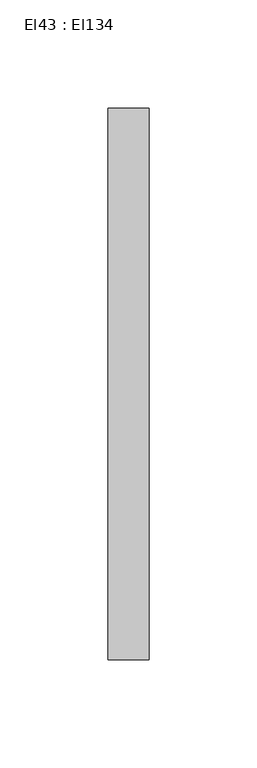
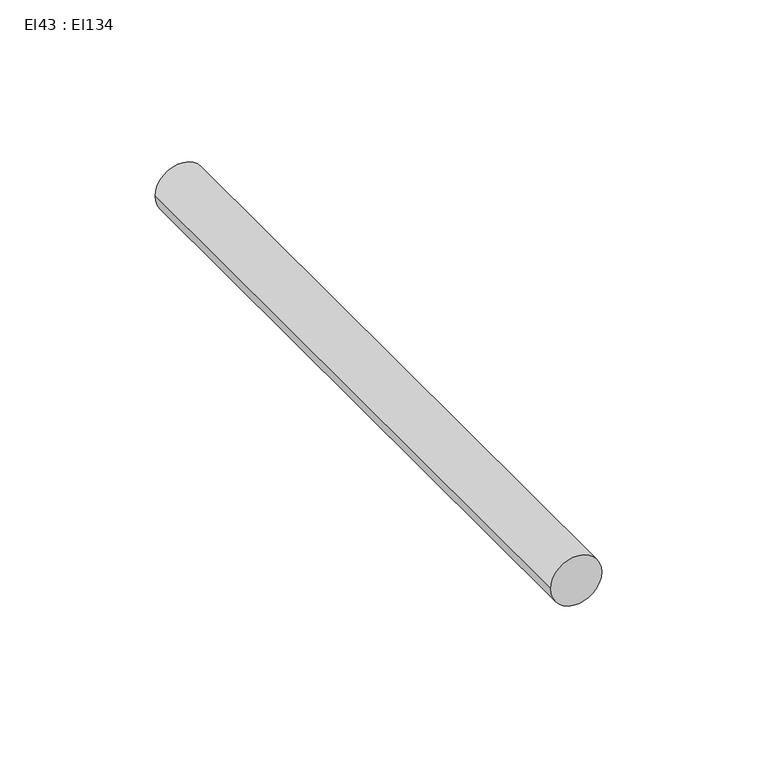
"""IFC4 building model written with IfcOpenShell, lengths in millimetres: cable carrier segment geometry, El43 : El134."""

from ifc_helpers import new_model, si_unit, point, frame, frame_2d, origin, place, context, project, spatial, circle_curve, trimmed, segment, composite_curve, outline, extrude, source, transform, mapped, element, save


def el43_el134_258edfdb(model_context):
    return source(origin(), model_context, "Body", "SweptSolid", [
        extrude(outline(composite_curve([segment(trimmed(circle_curve(frame_2d((1800.0, 25144.4746511)), 9.5), [point((1800.0, 25134.9746511))], [point((1800.0, 25153.9746511))], False, "CARTESIAN"), True, "CONTINUOUS"), segment(trimmed(circle_curve(frame_2d((1800.0, 25144.4746511)), 9.5), [point((1800.0, 25153.9746511))], [point((1800.0, 25134.9746511))], False, "CARTESIAN"), True, "CONTINUOUS")], self_intersect=False)), frame((0.0, 1680.7321745, 0.0), z_axis=(0.0, 1.0, 0.0), x_axis=(0.0, 0.0, 1.0)), (0.0, 0.0, 1.0), 254.96),
    ])


if __name__ == "__main__":
    model = new_model("IFC4")
    model_context = context("Model", 3, world=origin())
    ifc_project = project(units=[si_unit("LENGTHUNIT", "METRE", prefix="MILLI")], contexts=[model_context])
    site = spatial("IfcSite", under=ifc_project)
    building = spatial("IfcBuilding", under=site)
    placement = place(None, origin())
    el43_el134_shape = el43_el134_258edfdb(model_context)
    element("IfcCableCarrierSegment", 1, ObjectType="El43 : El134", at=placement, inside=building, context=model_context, shape_type="MappedRepresentation", body=[
        mapped(el43_el134_shape, transform((0.0, 0.0, 0.0), x_axis=(1.0, 0.0, 0.0), y_axis=(0.0, 1.0, 0.0), z_axis=(0.0, 0.0, 1.0))),
    ])
    save(model, "model.ifc")
